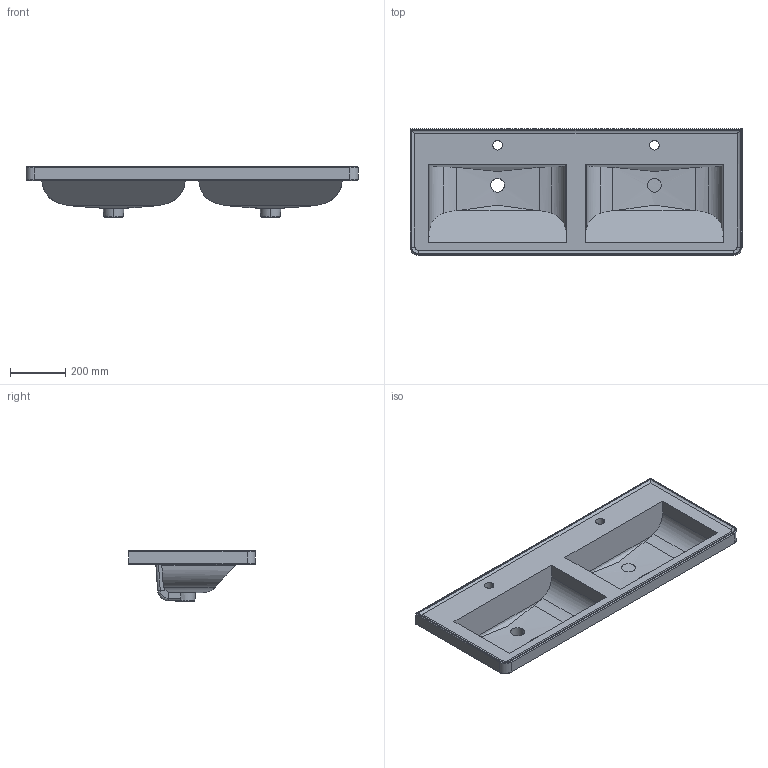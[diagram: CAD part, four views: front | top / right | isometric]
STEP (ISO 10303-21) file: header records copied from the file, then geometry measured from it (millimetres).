
FILE_DESCRIPTION(('FreeCAD Model'),'2;1');
FILE_NAME('Open CASCADE Shape Model','2024-11-19T15:56:05',('Author'),( ''),'Open CASCADE STEP processor 7.6','FreeCAD','Unknown');
FILE_SCHEMA(('AUTOMOTIVE_DESIGN { 1 0 10303 214 1 1 1 1 }'));
Length unit declared in the file: millimetre
Products named in the file (2): TopLevelAssembly; Połączona geometria bryłowa
Assembly tree (1 placements, depth 2):
  TopLevelAssembly
    Połączona geometria bryłowa
Bounding box: 1201.84 x 458.92 x 183.07 mm (x, y, z)
Volume: 18784486.7 mm3; surface area: 1741842.4 mm2
Topology: 1 solids, 1 shells, 145 faces, 384 edges, 246 vertices
Faces by surface type: cylinder 73, plane 48, bspline 24
Entity records: 5432 total; most frequent: CARTESIAN_POINT 1892, ORIENTED_EDGE 768, DIRECTION 700, EDGE_CURVE 384, AXIS2_PLACEMENT_3D 260, VERTEX_POINT 246, LINE 180, VECTOR 180
